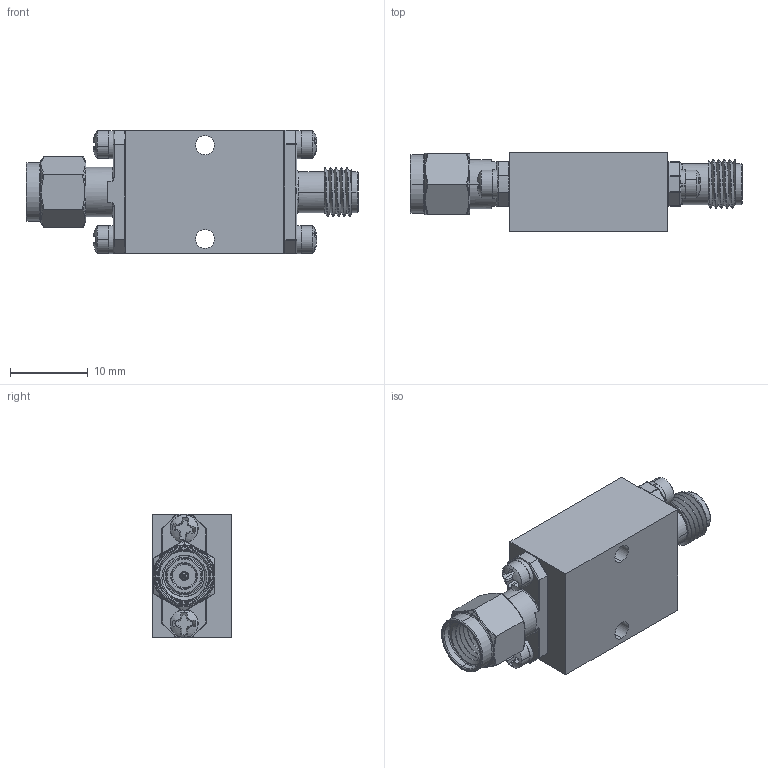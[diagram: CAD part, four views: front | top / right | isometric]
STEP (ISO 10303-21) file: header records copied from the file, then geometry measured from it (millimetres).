
FILE_DESCRIPTION (( 'STEP AP214' ), '1' );
FILE_NAME ('LM-20M15G-100W-15DBM-HERM.STEP', '2025-12-23T19:52:00', ( '' ), ( '' ), 'SwSTEP 2.0', 'SolidWorks 2025', '' );
FILE_SCHEMA (( 'AUTOMOTIVE_DESIGN' ));
Length unit declared in the file: millimetre
Products named in the file (1): LM-20M15G-100W-15DBM-HERM
Bounding box: 42.7 x 10.16 x 15.89 mm (x, y, z)
Volume: 3794.7 mm3; surface area: 4011 mm2
Topology: 19 solids, 19 shells, 868 faces, 2962 edges, 2256 vertices
Faces by surface type: plane 341, cylinder 240, torus 142, sphere 50, cone 48, bspline 47
Entity records: 46790 total; most frequent: CARTESIAN_POINT 13728, ORIENTED_EDGE 5836, DIRECTION 4817, EDGE_CURVE 2918, VERTEX_POINT 2252, AXIS2_PLACEMENT_3D 1736, VECTOR 1345, LINE 1345
